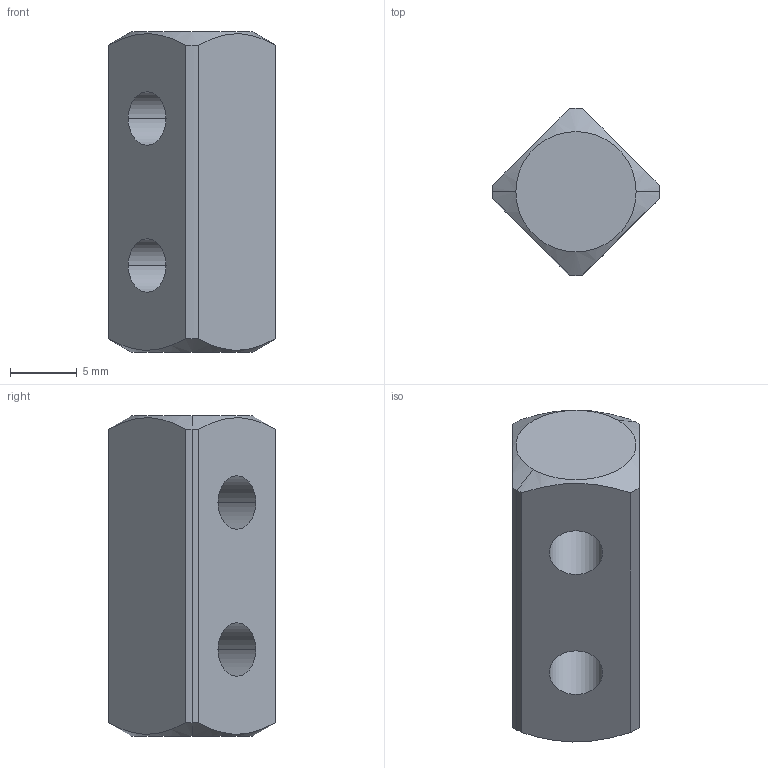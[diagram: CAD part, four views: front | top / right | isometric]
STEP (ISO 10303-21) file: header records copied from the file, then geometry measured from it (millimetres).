
FILE_DESCRIPTION (( 'STEP AP214' ), '1' );
FILE_NAME ('TNA1-AD01-01.STEP', '2011-09-06T01:23:22', ( ' ' ), ( '' ), 'SwSTEP 2.0', 'SolidWorks 2011', '' );
FILE_SCHEMA (( 'AUTOMOTIVE_DESIGN' ));
Length unit declared in the file: millimetre
Products named in the file (1): TNA1-AD01-01
Bounding box: 12.5 x 12.5 x 24 mm (x, y, z)
Volume: 1887.7 mm3; surface area: 1211.5 mm2
Topology: 1 solids, 1 shells, 19 faces, 49 edges, 32 vertices
Faces by surface type: cylinder 9, plane 6, cone 4
Entity records: 689 total; most frequent: CARTESIAN_POINT 173, DIRECTION 105, ORIENTED_EDGE 98, EDGE_CURVE 49, AXIS2_PLACEMENT_3D 44, VERTEX_POINT 32, CIRCLE 24, EDGE_LOOP 23
